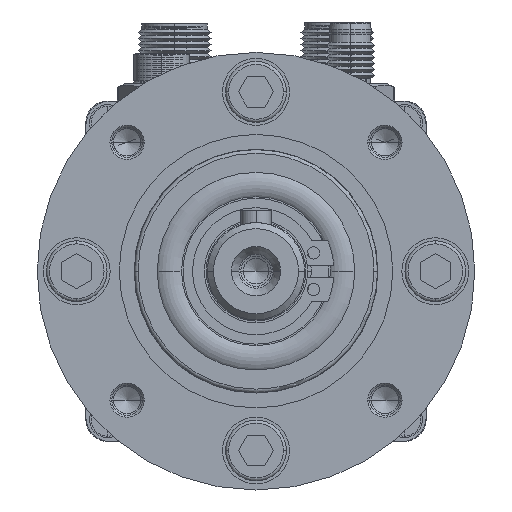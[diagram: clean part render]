
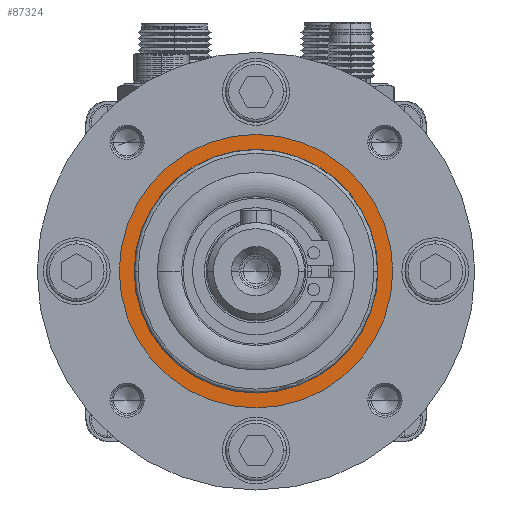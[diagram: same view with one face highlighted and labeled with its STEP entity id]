
A CAD part, left-side view. The second image highlights one B-rep face of the part: STEP entity #87324.
In plain terms, the highlighted planar face has unit normal (-1, 0, 0) as drawn and (1, 0, 0) by its records, which use the part's own axes.
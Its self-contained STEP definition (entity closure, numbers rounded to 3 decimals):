
#3944 = CARTESIAN_POINT ( 'NONE',  ( 38.6, 0., 0. ) ) ;
#11754 = AXIS2_PLACEMENT_3D ( 'NONE', #3944, #71622, #127413 ) ;
#14957 = AXIS2_PLACEMENT_3D ( 'NONE', #120699, #53472, #87293 ) ;
#19410 = DIRECTION ( 'NONE',  ( -1., 0., 0. ) ) ;
#23298 = ORIENTED_EDGE ( 'NONE', *, *, #25170, .F. ) ;
#25170 = EDGE_CURVE ( 'NONE', #127399, #146462, #145739, .T. ) ;
#28824 = FACE_OUTER_BOUND ( 'NONE', #122687, .T. ) ;
#30026 = DIRECTION ( 'NONE',  ( 0., 0., -1. ) ) ;
#31883 = DIRECTION ( 'NONE',  ( 0., 0., 1. ) ) ;
#32365 = CARTESIAN_POINT ( 'NONE',  ( 38.6, 0., 0. ) ) ;
#39202 = CARTESIAN_POINT ( 'NONE',  ( 38.6, 0., 0. ) ) ;
#53472 = DIRECTION ( 'NONE',  ( -1., 0., 0. ) ) ;
#59355 = CIRCLE ( 'NONE', #14957, 22.5 ) ;
#61112 = PLANE ( 'NONE',  #143217 ) ;
#61877 = ORIENTED_EDGE ( 'NONE', *, *, #143032, .F. ) ;
#66146 = CIRCLE ( 'NONE', #11754, 20.05 ) ;
#66639 = ORIENTED_EDGE ( 'NONE', *, *, #145422, .T. ) ;
#69324 = CARTESIAN_POINT ( 'NONE',  ( 38.6, 0., -22.5 ) ) ;
#71622 = DIRECTION ( 'NONE',  ( -1., 0., 0. ) ) ;
#75168 = AXIS2_PLACEMENT_3D ( 'NONE', #32365, #19410, #31883 ) ;
#79675 = CIRCLE ( 'NONE', #75168, 20.05 ) ;
#81431 = EDGE_LOOP ( 'NONE', ( #66639, #125877 ) ) ;
#83954 = DIRECTION ( 'NONE',  ( 1., 0., 0. ) ) ;
#86251 = CARTESIAN_POINT ( 'NONE',  ( 38.6, 0., 0. ) ) ;
#87293 = DIRECTION ( 'NONE',  ( 0., 0., -1. ) ) ;
#87324 = ADVANCED_FACE ( 'NONE', ( #28824, #137563 ), #61112, .T. ) ;
#98502 = CARTESIAN_POINT ( 'NONE',  ( 38.6, 0., 20.05 ) ) ;
#98735 = DIRECTION ( 'NONE',  ( -1., 0., 0. ) ) ;
#105435 = EDGE_CURVE ( 'NONE', #137717, #136963, #79675, .T. ) ;
#117858 = DIRECTION ( 'NONE',  ( 0., 0., -1. ) ) ;
#120699 = CARTESIAN_POINT ( 'NONE',  ( 38.6, 0., 0. ) ) ;
#122687 = EDGE_LOOP ( 'NONE', ( #61877, #23298 ) ) ;
#123520 = AXIS2_PLACEMENT_3D ( 'NONE', #86251, #98735, #30026 ) ;
#124708 = CARTESIAN_POINT ( 'NONE',  ( 38.6, 0., 22.5 ) ) ;
#125877 = ORIENTED_EDGE ( 'NONE', *, *, #105435, .T. ) ;
#127399 = VERTEX_POINT ( 'NONE', #124708 ) ;
#127413 = DIRECTION ( 'NONE',  ( 0., 0., 1. ) ) ;
#136963 = VERTEX_POINT ( 'NONE', #98502 ) ;
#137563 = FACE_BOUND ( 'NONE', #81431, .T. ) ;
#137717 = VERTEX_POINT ( 'NONE', #142491 ) ;
#142491 = CARTESIAN_POINT ( 'NONE',  ( 38.6, 0., -20.05 ) ) ;
#143032 = EDGE_CURVE ( 'NONE', #146462, #127399, #59355, .T. ) ;
#143217 = AXIS2_PLACEMENT_3D ( 'NONE', #39202, #83954, #117858 ) ;
#145422 = EDGE_CURVE ( 'NONE', #136963, #137717, #66146, .T. ) ;
#145739 = CIRCLE ( 'NONE', #123520, 22.5 ) ;
#146462 = VERTEX_POINT ( 'NONE', #69324 ) ;
